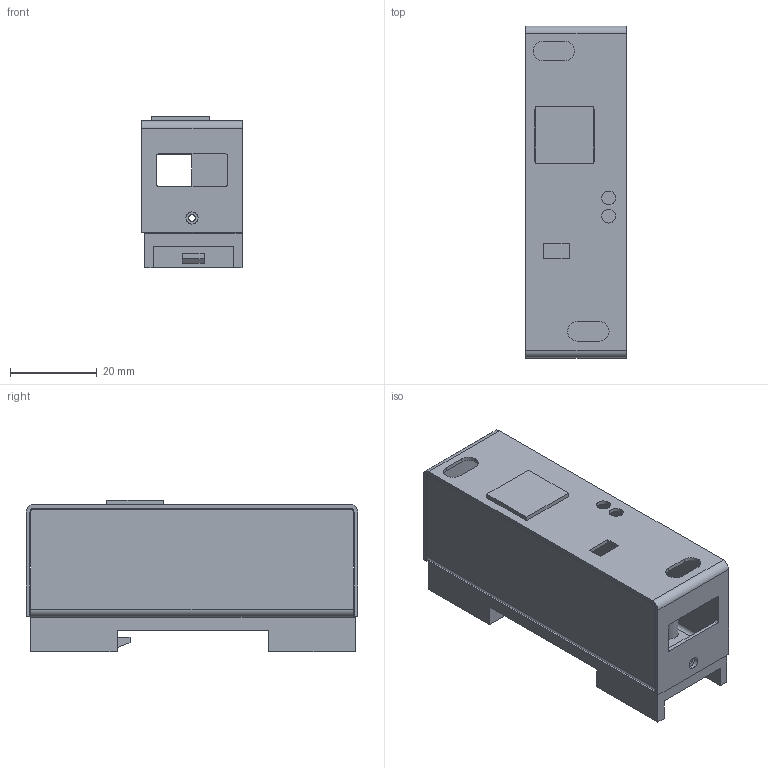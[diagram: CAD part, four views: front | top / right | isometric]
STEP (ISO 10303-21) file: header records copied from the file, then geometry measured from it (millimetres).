
FILE_DESCRIPTION (( 'STEP AP214' ), '1' );
FILE_NAME ('3d_model_tf130.STEP', '2022-12-01T17:59:11', ( '' ), ( '' ), 'SwSTEP 2.0', 'SolidWorks 2015', '' );
FILE_SCHEMA (( 'AUTOMOTIVE_DESIGN' ));
Length unit declared in the file: millimetre
Products named in the file (4): SUPORTE TRILHO; Tampao Antena; IM002; 3d_model_tf130
Assembly tree (3 placements, depth 2):
  3d_model_tf130
    IM002
    Tampao Antena
    SUPORTE TRILHO
Bounding box: 23.1 x 76.6 x 35 mm (x, y, z)
Volume: 13744 mm3; surface area: 22665.3 mm2
Topology: 8 solids, 8 shells, 207 faces, 546 edges, 364 vertices
Faces by surface type: plane 137, cylinder 70
Entity records: 6683 total; most frequent: CARTESIAN_POINT 1123, DIRECTION 1112, ORIENTED_EDGE 1092, EDGE_CURVE 546, VECTOR 406, LINE 406, VERTEX_POINT 364, AXIS2_PLACEMENT_3D 353
